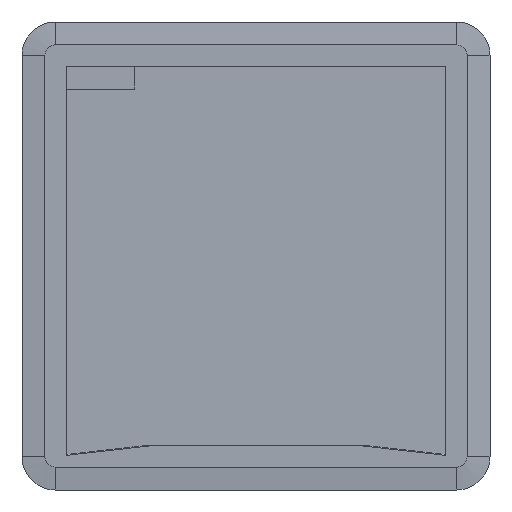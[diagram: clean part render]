
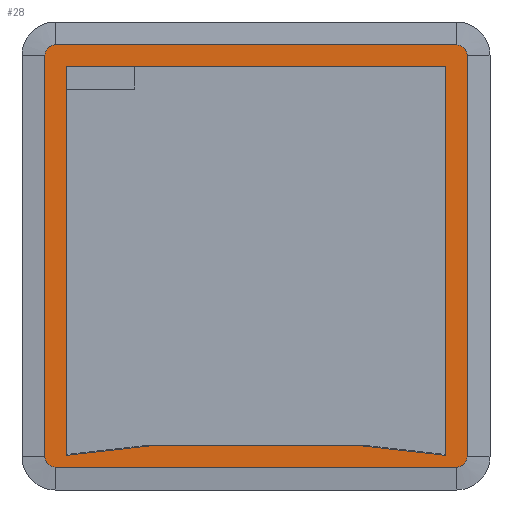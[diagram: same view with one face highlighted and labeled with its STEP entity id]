
A CAD part, front view. The second image highlights one B-rep face of the part: STEP entity #28.
In plain terms, the highlighted planar face has unit normal (0, -1, 0).
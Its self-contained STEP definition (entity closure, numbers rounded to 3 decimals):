
#14=FACE_BOUND('',#283,.T.);
#28=ADVANCED_FACE('',(#155,#14),#1957,.T.);
#155=FACE_OUTER_BOUND('',#282,.T.);
#282=EDGE_LOOP('',(#439,#440,#441,#442,#443,#444,#445,#446));
#283=EDGE_LOOP('',(#447,#448,#449,#450,#451,#452));
#439=ORIENTED_EDGE('',*,*,#1099,.F.);
#440=ORIENTED_EDGE('',*,*,#1102,.F.);
#441=ORIENTED_EDGE('',*,*,#1105,.F.);
#442=ORIENTED_EDGE('',*,*,#1108,.F.);
#443=ORIENTED_EDGE('',*,*,#1111,.F.);
#444=ORIENTED_EDGE('',*,*,#1130,.F.);
#445=ORIENTED_EDGE('',*,*,#1092,.F.);
#446=ORIENTED_EDGE('',*,*,#1096,.F.);
#447=ORIENTED_EDGE('',*,*,#1080,.F.);
#448=ORIENTED_EDGE('',*,*,#1078,.F.);
#449=ORIENTED_EDGE('',*,*,#1076,.T.);
#450=ORIENTED_EDGE('',*,*,#1081,.F.);
#451=ORIENTED_EDGE('',*,*,#1082,.F.);
#452=ORIENTED_EDGE('',*,*,#1079,.T.);
#1076=EDGE_CURVE('',#1734,#1733,#1441,.T.);
#1078=EDGE_CURVE('',#1734,#1735,#1443,.T.);
#1079=EDGE_CURVE('',#1737,#1736,#1444,.T.);
#1080=EDGE_CURVE('',#1735,#1736,#1445,.T.);
#1081=EDGE_CURVE('',#1739,#1733,#1446,.T.);
#1082=EDGE_CURVE('',#1737,#1739,#1447,.T.);
#1092=EDGE_CURVE('',#1741,#1740,#1457,.T.);
#1096=EDGE_CURVE('',#1738,#1741,#1396,.T.);
#1099=EDGE_CURVE('',#1745,#1738,#1462,.T.);
#1102=EDGE_CURVE('',#1747,#1745,#1398,.T.);
#1105=EDGE_CURVE('',#1749,#1747,#1466,.T.);
#1108=EDGE_CURVE('',#1751,#1749,#1400,.T.);
#1111=EDGE_CURVE('',#1753,#1751,#1470,.T.);
#1130=EDGE_CURVE('',#1740,#1753,#1406,.T.);
#1396=(
BOUNDED_CURVE()
B_SPLINE_CURVE(2,(#3155,#3156,#3157),.UNSPECIFIED.,.F.,.F.)
B_SPLINE_CURVE_WITH_KNOTS((3,3),(-7.069,0.),.UNSPECIFIED.)
CURVE()
GEOMETRIC_REPRESENTATION_ITEM()
RATIONAL_B_SPLINE_CURVE((1.,0.707,1.))
REPRESENTATION_ITEM('')
);
#1398=(
BOUNDED_CURVE()
B_SPLINE_CURVE(2,(#3169,#3170,#3171),.UNSPECIFIED.,.F.,.F.)
B_SPLINE_CURVE_WITH_KNOTS((3,3),(-7.069,0.),.UNSPECIFIED.)
CURVE()
GEOMETRIC_REPRESENTATION_ITEM()
RATIONAL_B_SPLINE_CURVE((1.,0.707,1.))
REPRESENTATION_ITEM('')
);
#1400=(
BOUNDED_CURVE()
B_SPLINE_CURVE(2,(#3183,#3184,#3185),.UNSPECIFIED.,.F.,.F.)
B_SPLINE_CURVE_WITH_KNOTS((3,3),(-7.069,0.),.UNSPECIFIED.)
CURVE()
GEOMETRIC_REPRESENTATION_ITEM()
RATIONAL_B_SPLINE_CURVE((1.,0.707,1.))
REPRESENTATION_ITEM('')
);
#1406=(
BOUNDED_CURVE()
B_SPLINE_CURVE(2,(#3233,#3234,#3235),.UNSPECIFIED.,.F.,.F.)
B_SPLINE_CURVE_WITH_KNOTS((3,3),(-7.069,0.),.UNSPECIFIED.)
CURVE()
GEOMETRIC_REPRESENTATION_ITEM()
RATIONAL_B_SPLINE_CURVE((1.,0.707,1.))
REPRESENTATION_ITEM('')
);
#1441=B_SPLINE_CURVE_WITH_KNOTS('',1,(#3037,#3038),.UNSPECIFIED.,.F.,.F.,
(2,2),(-165.5,0.),.UNSPECIFIED.);
#1443=B_SPLINE_CURVE_WITH_KNOTS('',1,(#3041,#3042),.UNSPECIFIED.,.F.,.F.,
(2,2),(0.,169.649),.UNSPECIFIED.);
#1444=B_SPLINE_CURVE_WITH_KNOTS('',1,(#3043,#3044),.UNSPECIFIED.,.F.,.F.,
(2,2),(-92.062,0.),.UNSPECIFIED.);
#1445=B_SPLINE_CURVE_WITH_KNOTS('',1,(#3045,#3046),.UNSPECIFIED.,.F.,.F.,
(2,2),(0.,36.953),.UNSPECIFIED.);
#1446=B_SPLINE_CURVE_WITH_KNOTS('',1,(#3047,#3048),.UNSPECIFIED.,.F.,.F.,
(2,2),(0.,169.649),.UNSPECIFIED.);
#1447=B_SPLINE_CURVE_WITH_KNOTS('',1,(#3049,#3050),.UNSPECIFIED.,.F.,.F.,
(2,2),(-36.953,0.),.UNSPECIFIED.);
#1457=B_SPLINE_CURVE_WITH_KNOTS('',1,(#3147,#3148),.UNSPECIFIED.,.F.,.F.,
(2,2),(-175.,0.),.UNSPECIFIED.);
#1462=B_SPLINE_CURVE_WITH_KNOTS('',1,(#3163,#3164),.UNSPECIFIED.,.F.,.F.,
(2,2),(-175.,0.),.UNSPECIFIED.);
#1466=B_SPLINE_CURVE_WITH_KNOTS('',1,(#3177,#3178),.UNSPECIFIED.,.F.,.F.,
(2,2),(-175.,0.),.UNSPECIFIED.);
#1470=B_SPLINE_CURVE_WITH_KNOTS('',1,(#3191,#3192),.UNSPECIFIED.,.F.,.F.,
(2,2),(-175.,0.),.UNSPECIFIED.);
#1733=VERTEX_POINT('',#2817);
#1734=VERTEX_POINT('',#2818);
#1735=VERTEX_POINT('',#2819);
#1736=VERTEX_POINT('',#2820);
#1737=VERTEX_POINT('',#2821);
#1738=VERTEX_POINT('',#2822);
#1739=VERTEX_POINT('',#2823);
#1740=VERTEX_POINT('',#2824);
#1741=VERTEX_POINT('',#2825);
#1745=VERTEX_POINT('',#2829);
#1747=VERTEX_POINT('',#2831);
#1749=VERTEX_POINT('',#2833);
#1751=VERTEX_POINT('',#2835);
#1753=VERTEX_POINT('',#2837);
#1957=PLANE('',#2154);
#2154=AXIS2_PLACEMENT_3D('',#2378,#2266,$);
#2266=DIRECTION('',(0.,-1.,0.));
#2378=CARTESIAN_POINT('',(-110.4,-27.5,110.4));
#2817=CARTESIAN_POINT('',(82.75,-27.5,82.75));
#2818=CARTESIAN_POINT('',(-82.75,-27.5,82.75));
#2819=CARTESIAN_POINT('',(-82.75,-27.5,-86.899));
#2820=CARTESIAN_POINT('',(-46.031,-27.5,-82.75));
#2821=CARTESIAN_POINT('',(46.031,-27.5,-82.75));
#2822=CARTESIAN_POINT('',(-92.,-27.5,87.5));
#2823=CARTESIAN_POINT('',(82.75,-27.5,-86.899));
#2824=CARTESIAN_POINT('',(87.5,-27.5,92.));
#2825=CARTESIAN_POINT('',(-87.5,-27.5,92.));
#2829=CARTESIAN_POINT('',(-92.,-27.5,-87.5));
#2831=CARTESIAN_POINT('',(-87.5,-27.5,-92.));
#2833=CARTESIAN_POINT('',(87.5,-27.5,-92.));
#2835=CARTESIAN_POINT('',(92.,-27.5,-87.5));
#2837=CARTESIAN_POINT('',(92.,-27.5,87.5));
#3037=CARTESIAN_POINT('',(-82.75,-27.5,82.75));
#3038=CARTESIAN_POINT('',(82.75,-27.5,82.75));
#3041=CARTESIAN_POINT('',(-82.75,-27.5,82.75));
#3042=CARTESIAN_POINT('',(-82.75,-27.5,-86.899));
#3043=CARTESIAN_POINT('',(46.031,-27.5,-82.75));
#3044=CARTESIAN_POINT('',(-46.031,-27.5,-82.75));
#3045=CARTESIAN_POINT('',(-82.75,-27.5,-86.899));
#3046=CARTESIAN_POINT('',(-46.031,-27.5,-82.75));
#3047=CARTESIAN_POINT('',(82.75,-27.5,-86.899));
#3048=CARTESIAN_POINT('',(82.75,-27.5,82.75));
#3049=CARTESIAN_POINT('',(46.031,-27.5,-82.75));
#3050=CARTESIAN_POINT('',(82.75,-27.5,-86.899));
#3147=CARTESIAN_POINT('',(-87.5,-27.5,92.));
#3148=CARTESIAN_POINT('',(87.5,-27.5,92.));
#3155=CARTESIAN_POINT('',(-92.,-27.5,87.5));
#3156=CARTESIAN_POINT('',(-92.,-27.5,92.));
#3157=CARTESIAN_POINT('',(-87.5,-27.5,92.));
#3163=CARTESIAN_POINT('',(-92.,-27.5,-87.5));
#3164=CARTESIAN_POINT('',(-92.,-27.5,87.5));
#3169=CARTESIAN_POINT('',(-87.5,-27.5,-92.));
#3170=CARTESIAN_POINT('',(-92.,-27.5,-92.));
#3171=CARTESIAN_POINT('',(-92.,-27.5,-87.5));
#3177=CARTESIAN_POINT('',(87.5,-27.5,-92.));
#3178=CARTESIAN_POINT('',(-87.5,-27.5,-92.));
#3183=CARTESIAN_POINT('',(92.,-27.5,-87.5));
#3184=CARTESIAN_POINT('',(92.,-27.5,-92.));
#3185=CARTESIAN_POINT('',(87.5,-27.5,-92.));
#3191=CARTESIAN_POINT('',(92.,-27.5,87.5));
#3192=CARTESIAN_POINT('',(92.,-27.5,-87.5));
#3233=CARTESIAN_POINT('',(87.5,-27.5,92.));
#3234=CARTESIAN_POINT('',(92.,-27.5,92.));
#3235=CARTESIAN_POINT('',(92.,-27.5,87.5));
